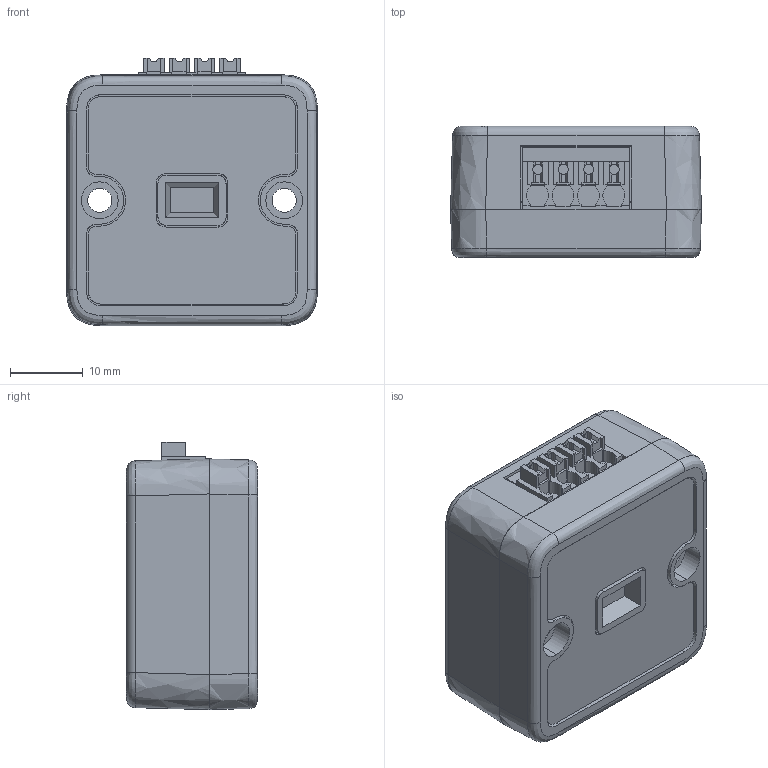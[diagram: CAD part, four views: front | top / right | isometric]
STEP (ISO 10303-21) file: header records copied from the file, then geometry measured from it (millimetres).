
FILE_DESCRIPTION (( 'STEP AP214' ), '1' );
FILE_NAME ('CanRange.STEP', '2025-01-15T23:10:22', ( '' ), ( '' ), 'SwSTEP 2.0', 'SolidWorks 2021', '' );
FILE_SCHEMA (( 'AUTOMOTIVE_DESIGN' ));
Length unit declared in the file: inch
Products named in the file (7): CanRange; CANRangeOverlay2; CANRangeHousing2; Connector; CanRangeHousing1; PCB; CANRangeOverlay1
Assembly tree (6 placements, depth 2):
  CanRange
    CANRangeHousing2
    CanRangeHousing1
    CANRangeOverlay1
    CANRangeOverlay2
    Connector
    PCB
Bounding box: 34.52 x 18.03 x 36.8 mm (x, y, z)
Volume: 11797.1 mm3; surface area: 16405.1 mm2
Topology: 18 solids, 18 shells, 711 faces, 1919 edges, 1259 vertices
Faces by surface type: plane 481, cylinder 130, bspline 100
Entity records: 25825 total; most frequent: CARTESIAN_POINT 7396, ORIENTED_EDGE 3838, DIRECTION 2962, EDGE_CURVE 1919, VERTEX_POINT 1259, LINE 1256, VECTOR 1256, AXIS2_PLACEMENT_3D 853
